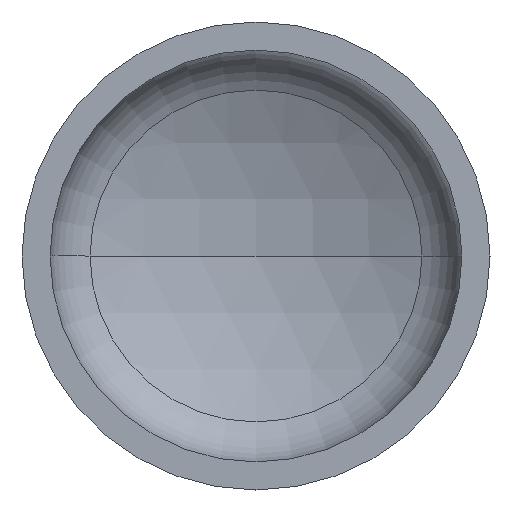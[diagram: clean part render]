
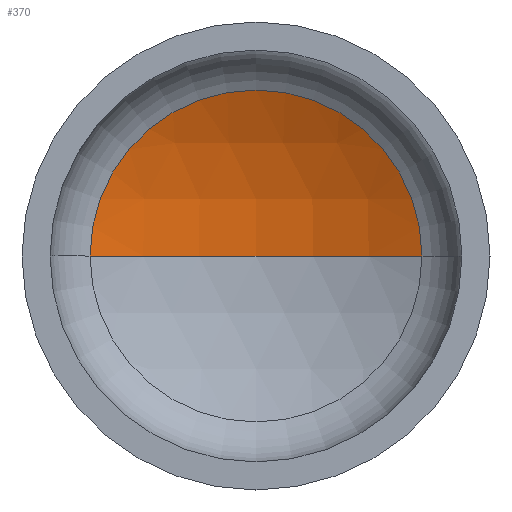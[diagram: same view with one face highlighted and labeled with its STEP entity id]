
A CAD part, front view. The second image highlights one B-rep face of the part: STEP entity #370.
In plain terms, the highlighted spherical face has radius 480 mm.
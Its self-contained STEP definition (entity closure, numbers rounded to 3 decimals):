
#3 = VERTEX_POINT ( 'NONE', #262 ) ;
#11 = EDGE_LOOP ( 'NONE', ( #79, #37, #25 ) ) ;
#14 = AXIS2_PLACEMENT_3D ( 'NONE', #404, #189, #140 ) ;
#21 = AXIS2_PLACEMENT_3D ( 'NONE', #239, #154, #361 ) ;
#22 = VERTEX_POINT ( 'NONE', #283 ) ;
#25 = ORIENTED_EDGE ( 'NONE', *, *, #355, .T. ) ;
#26 = AXIS2_PLACEMENT_3D ( 'NONE', #317, #170, #172 ) ;
#37 = ORIENTED_EDGE ( 'NONE', *, *, #358, .T. ) ;
#38 = VERTEX_POINT ( 'NONE', #286 ) ;
#45 = AXIS2_PLACEMENT_3D ( 'NONE', #131, #134, #136 ) ;
#79 = ORIENTED_EDGE ( 'NONE', *, *, #333, .F. ) ;
#105 = SPHERICAL_SURFACE ( 'NONE', #14, 480. ) ;
#125 = CIRCLE ( 'NONE', #26, 212.784 ) ;
#131 = CARTESIAN_POINT ( 'NONE',  ( 0., -237.793, 0. ) ) ;
#134 = DIRECTION ( 'NONE',  ( 0., 0., 1. ) ) ;
#136 = DIRECTION ( 'NONE',  ( 1., 0., 0. ) ) ;
#140 = DIRECTION ( 'NONE',  ( -1., 0., 0. ) ) ;
#154 = DIRECTION ( 'NONE',  ( 0., 0., -1. ) ) ;
#170 = DIRECTION ( 'NONE',  ( 0., -1., 0. ) ) ;
#172 = DIRECTION ( 'NONE',  ( 1., 0., 0. ) ) ;
#189 = DIRECTION ( 'NONE',  ( 0., 0., -1. ) ) ;
#239 = CARTESIAN_POINT ( 'NONE',  ( 0., -237.793, 0. ) ) ;
#262 = CARTESIAN_POINT ( 'NONE',  ( -212.784, 192.466, 0. ) ) ;
#283 = CARTESIAN_POINT ( 'NONE',  ( 0., 242.207, 0. ) ) ;
#286 = CARTESIAN_POINT ( 'NONE',  ( 212.784, 192.466, 0. ) ) ;
#317 = CARTESIAN_POINT ( 'NONE',  ( 0., 192.466, 0. ) ) ;
#333 = EDGE_CURVE ( 'NONE', #22, #3, #399, .T. ) ;
#338 = CIRCLE ( 'NONE', #21, 480. ) ;
#355 = EDGE_CURVE ( 'NONE', #38, #3, #125, .T. ) ;
#358 = EDGE_CURVE ( 'NONE', #22, #38, #338, .T. ) ;
#361 = DIRECTION ( 'NONE',  ( -1., 0., 0. ) ) ;
#370 = ADVANCED_FACE ( 'NONE', ( #383 ), #105, .F. ) ;
#383 = FACE_OUTER_BOUND ( 'NONE', #11, .T. ) ;
#399 = CIRCLE ( 'NONE', #45, 480. ) ;
#404 = CARTESIAN_POINT ( 'NONE',  ( 0., -237.793, 0. ) ) ;
